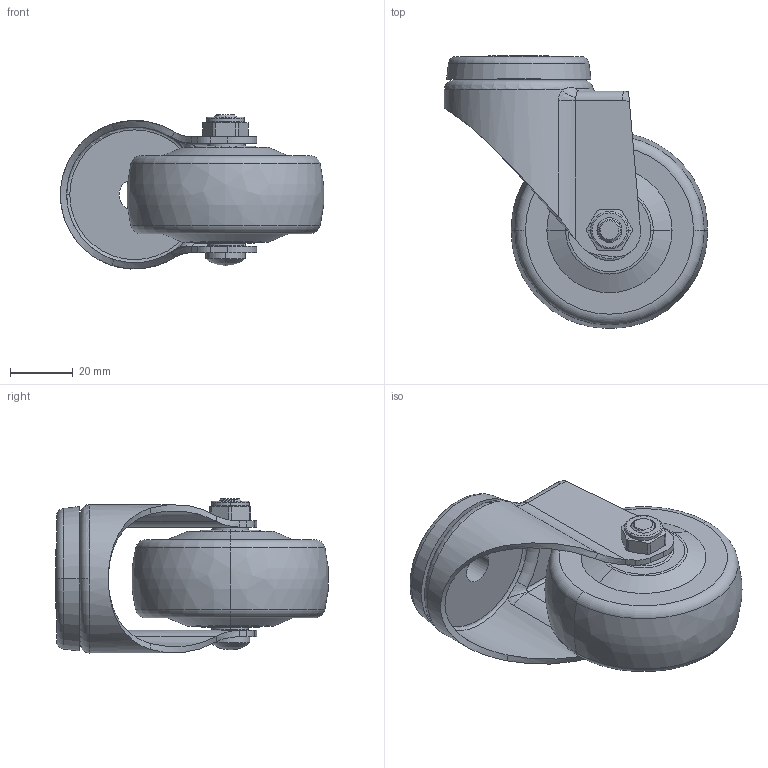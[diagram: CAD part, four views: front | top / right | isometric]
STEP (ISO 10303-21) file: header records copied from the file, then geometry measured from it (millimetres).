
FILE_DESCRIPTION((''),'2;1');
FILE_NAME('361125-3625-64_ASM','2020-01-03T',('L'),(''),'PRO/ENGINEER BY PARAMETRIC TECHNOLOGY CORPORATION, 2010280','PRO/ENGINEER BY PARAMETRIC TECHNOLOGY CORPORATION, 2010280','');
FILE_SCHEMA(('CONFIG_CONTROL_DESIGN'));
Length unit declared in the file: millimetre
Products named in the file (5): 361725; 3625-964; 350-33A; 300-34; 361125-3625-64_ASM
Assembly tree (4 placements, depth 2):
  361125-3625-64_ASM
    361725
    3625-964
    350-33A
    300-34
Bounding box: 84.11 x 87.16 x 49.22 mm (x, y, z)
Volume: 103948.3 mm3; surface area: 30072 mm2
Topology: 4 solids, 4 shells, 207 faces, 497 edges, 308 vertices
Faces by surface type: cylinder 70, plane 45, bspline 34, torus 32, cone 24, sphere 2
Entity records: 10762 total; most frequent: CARTESIAN_POINT 6040, ORIENTED_EDGE 990, DIRECTION 918, EDGE_CURVE 495, AXIS2_PLACEMENT_3D 381, VERTEX_POINT 308, EDGE_LOOP 229, FACE_OUTER_BOUND 207
